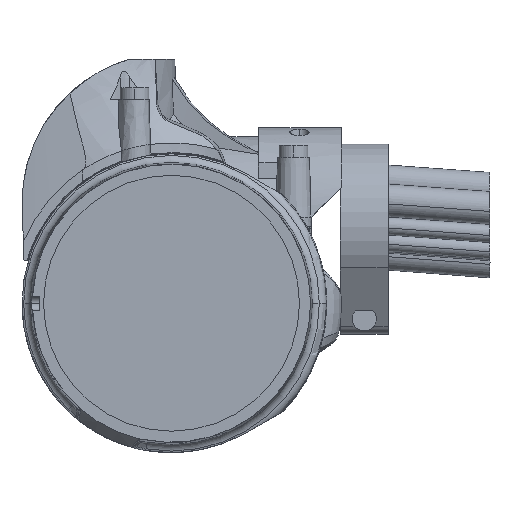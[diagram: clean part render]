
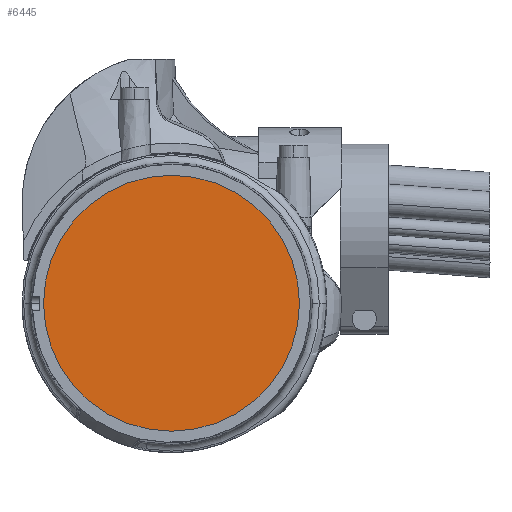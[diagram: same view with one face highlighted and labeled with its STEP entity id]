
A CAD part, left-side view. The second image highlights one B-rep face of the part: STEP entity #6445.
In plain terms, the highlighted planar face has unit normal (-1, 0, 0).
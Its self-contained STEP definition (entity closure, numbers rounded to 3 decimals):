
#1654 = EDGE_CURVE ( 'NONE', #15457, #11061, #22756, .T. ) ;
#5093 = EDGE_LOOP ( 'NONE', ( #15145, #41723 ) ) ;
#6445 = ADVANCED_FACE ( 'NONE', ( #22671 ), #18899, .T. ) ;
#8781 = DIRECTION ( 'NONE',  ( -1., 0., 0. ) ) ;
#9694 = CARTESIAN_POINT ( 'NONE',  ( 1871.1, 53.5, 1800. ) ) ;
#11061 = VERTEX_POINT ( 'NONE', #15651 ) ;
#14485 = AXIS2_PLACEMENT_3D ( 'NONE', #24462, #24226, #25575 ) ;
#15145 = ORIENTED_EDGE ( 'NONE', *, *, #21343, .T. ) ;
#15457 = VERTEX_POINT ( 'NONE', #9694 ) ;
#15651 = CARTESIAN_POINT ( 'NONE',  ( 1871.1, -53.5, 1800. ) ) ;
#18899 = PLANE ( 'NONE',  #29720 ) ;
#19511 = CIRCLE ( 'NONE', #24753, 53.5 ) ;
#21343 = EDGE_CURVE ( 'NONE', #11061, #15457, #19511, .T. ) ;
#22671 = FACE_OUTER_BOUND ( 'NONE', #5093, .T. ) ;
#22756 = CIRCLE ( 'NONE', #14485, 53.5 ) ;
#24178 = DIRECTION ( 'NONE',  ( -1., 0., 0. ) ) ;
#24226 = DIRECTION ( 'NONE',  ( -1., 0., 0. ) ) ;
#24462 = CARTESIAN_POINT ( 'NONE',  ( 1871.1, 0., 1800. ) ) ;
#24753 = AXIS2_PLACEMENT_3D ( 'NONE', #31022, #24178, #36617 ) ;
#25575 = DIRECTION ( 'NONE',  ( 0., -1., 0. ) ) ;
#26693 = CARTESIAN_POINT ( 'NONE',  ( 1871.1, 0., 1800. ) ) ;
#29720 = AXIS2_PLACEMENT_3D ( 'NONE', #26693, #8781, #41325 ) ;
#31022 = CARTESIAN_POINT ( 'NONE',  ( 1871.1, 0., 1800. ) ) ;
#36617 = DIRECTION ( 'NONE',  ( 0., -1., 0. ) ) ;
#41325 = DIRECTION ( 'NONE',  ( 0., -1., 0. ) ) ;
#41723 = ORIENTED_EDGE ( 'NONE', *, *, #1654, .T. ) ;
